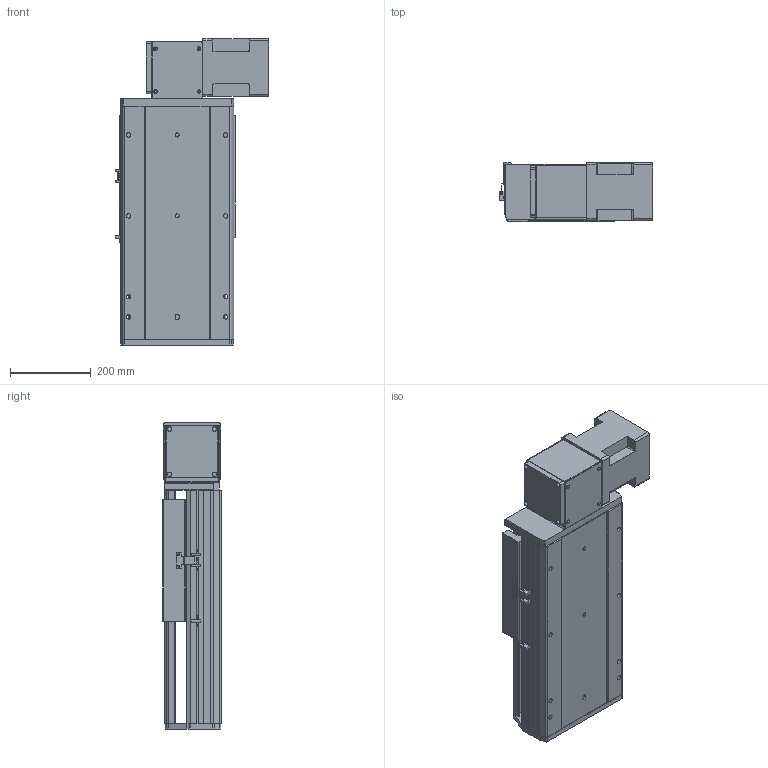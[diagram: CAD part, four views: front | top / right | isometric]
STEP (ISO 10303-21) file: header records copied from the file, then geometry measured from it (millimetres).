
FILE_DESCRIPTION (( 'STEP AP214' ), '1' );
FILE_NAME ('RTB28S-XX-150-BL-M100-XX-C4.STEP', '2025-12-22T02:13:03', ( '' ), ( '' ), 'SwSTEP 2.0', 'SolidWorks 2018', '' );
FILE_SCHEMA (( 'AUTOMOTIVE_DESIGN' ));
Length unit declared in the file: millimetre
Products named in the file (4): RTB28S-GY-004^RTB28S-XX-XX-BL-M100-XX-C4; RTB28S-GY-011^RTB28S-XX-XX-BL-M100-XX-C4; RTB28S-XX-150-BL-M100-XX-C4; RTB28S-GY-008^RTB28S-XX-XX-BL-M100-XX-C4
Assembly tree (3 placements, depth 2):
  RTB28S-XX-150-BL-M100-XX-C4
    RTB28S-GY-011^RTB28S-XX-XX-BL-M100-XX-C4
    RTB28S-GY-004^RTB28S-XX-XX-BL-M100-XX-C4
    RTB28S-GY-008^RTB28S-XX-XX-BL-M100-XX-C4
Bounding box: 380.7 x 145 x 757 mm (x, y, z)
Volume: 16221212.8 mm3; surface area: 1655078.6 mm2
Topology: 3 solids, 4 shells, 748 faces, 1968 edges, 1248 vertices
Faces by surface type: plane 337, cylinder 327, cone 80, torus 4
Entity records: 27569 total; most frequent: CARTESIAN_POINT 4402, DIRECTION 4158, ORIENTED_EDGE 3872, EDGE_CURVE 1936, AXIS2_PLACEMENT_3D 1484, VERTEX_POINT 1248, LINE 1190, VECTOR 1190
